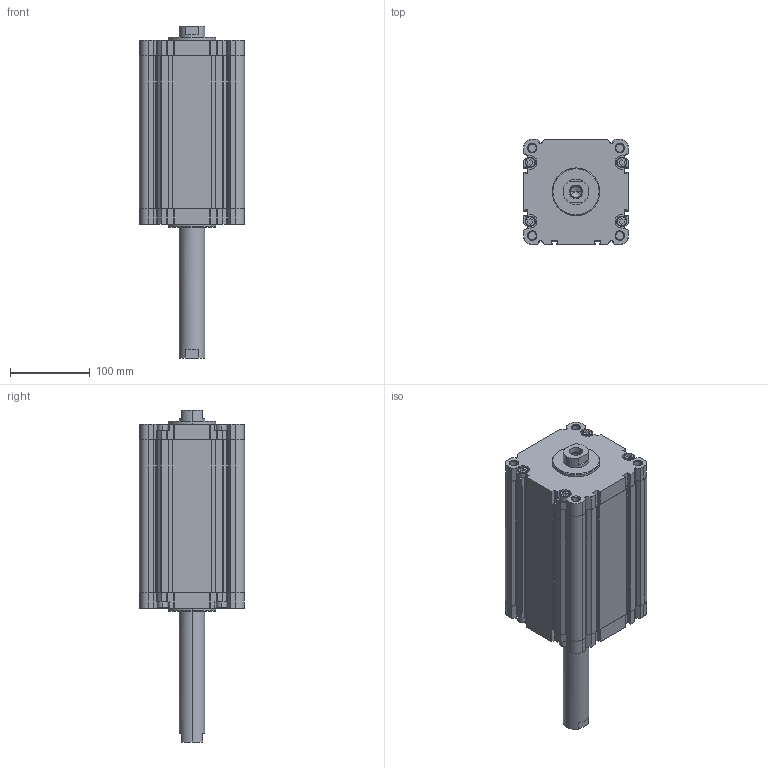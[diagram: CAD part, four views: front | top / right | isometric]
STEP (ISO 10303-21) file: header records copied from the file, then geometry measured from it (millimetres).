
FILE_DESCRIPTION (( 'STEP AP203' ), '1' );
FILE_NAME ('CDVU125-150F-P.STEP', '2020-07-24T18:45:47', ( '' ), ( '' ), 'SwSTEP 2.0', 'SolidWorks 2019', '' );
FILE_SCHEMA (( 'CONFIG_CONTROL_DESIGN' ));
Length unit declared in the file: millimetre
Products named in the file (1): CDVU125-150F-P
Bounding box: 132 x 132 x 417 mm (x, y, z)
Volume: 2312445.5 mm3; surface area: 348246.2 mm2
Topology: 2 solids, 2 shells, 666 faces, 1816 edges, 1184 vertices
Faces by surface type: plane 322, cylinder 276, cone 52, torus 16
Entity records: 21155 total; most frequent: DIRECTION 3778, CARTESIAN_POINT 3659, ORIENTED_EDGE 3616, EDGE_CURVE 1808, AXIS2_PLACEMENT_3D 1303, VERTEX_POINT 1184, VECTOR 1172, LINE 1172
